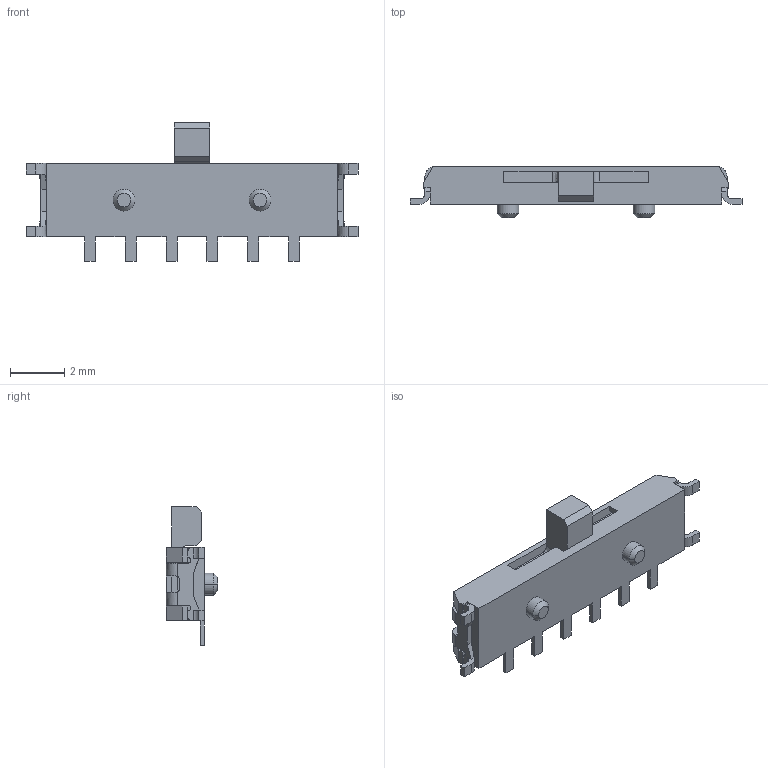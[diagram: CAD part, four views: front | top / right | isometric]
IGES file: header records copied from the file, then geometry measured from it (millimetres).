
Start section:  PTC IGES file: nss511-213f-bbbg1t_3d_09070801.igs
Global section: file name: nss511-213f-bbbg1t_3d_09070801.igs; native system: Pro/ENGINEER by Parametric Technology Corporation; preprocessor: 2008230; author: Rd-Jamie; organization: Unknown; date: 20090708.103518; units: millimetre
Bounding box: 12.2 x 1.9 x 5.1 mm (x, y, z)
Volume: 34.4 mm3; surface area: 189.6 mm2
Topology: 1 solids, 1 shells, 244 faces, 749 edges, 489 vertices
Faces by surface type: bspline 179, revolution 65
